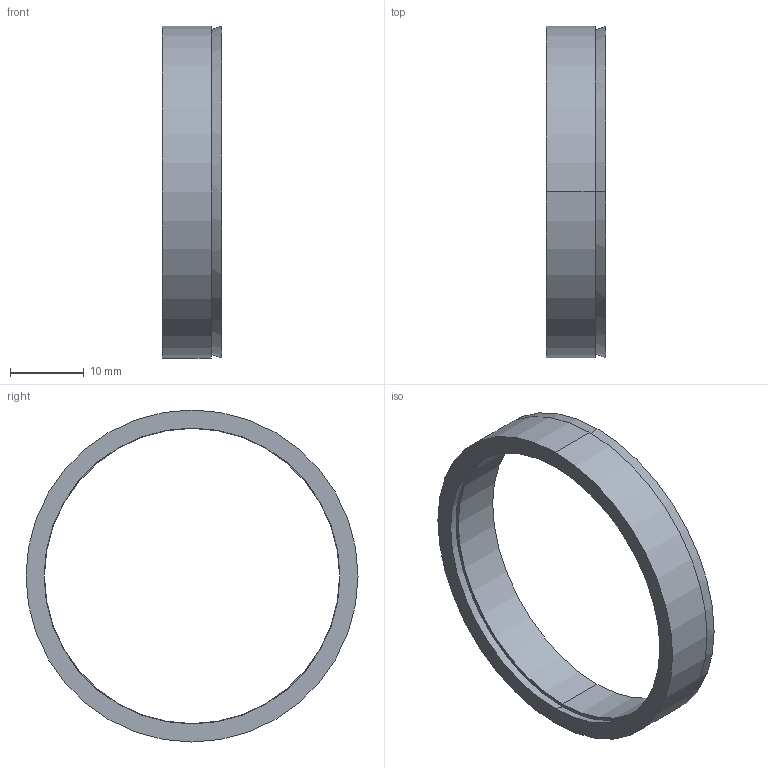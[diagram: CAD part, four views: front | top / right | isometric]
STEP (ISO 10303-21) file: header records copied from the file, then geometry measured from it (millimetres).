
FILE_DESCRIPTION (( 'STEP AP203' ), '1' );
FILE_NAME ('R-40-45.STEP', '2017-11-06T02:36:08', ( 'MYCOM' ), ( '' ), 'SwSTEP 2.0', 'SolidWorks 2015', '' );
FILE_SCHEMA (( 'CONFIG_CONTROL_DESIGN' ));
Length unit declared in the file: millimetre
Products named in the file (1): R-40-45
Bounding box: 8 x 45 x 45 mm (x, y, z)
Surface area: 4382.2 mm2 (no closed solid volume)
Topology: 0 solids, 2 shells, 12 faces, 24 edges, 16 vertices
Faces by surface type: cylinder 4, cone 4, plane 4
Entity records: 406 total; most frequent: DIRECTION 66, CARTESIAN_POINT 53, ORIENTED_EDGE 48, AXIS2_PLACEMENT_3D 29, EDGE_CURVE 24, CIRCLE 16, EDGE_LOOP 16, VERTEX_POINT 16
